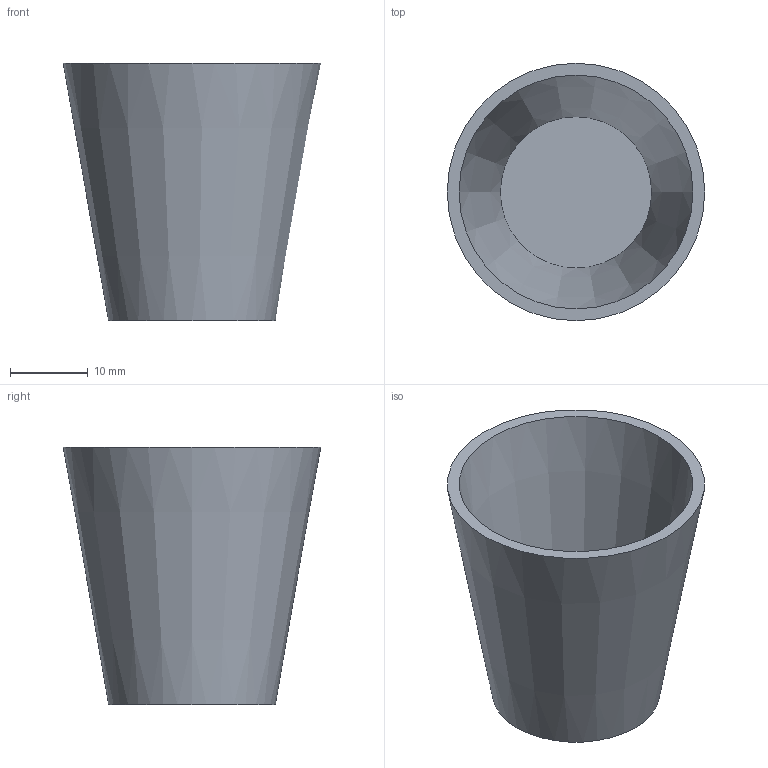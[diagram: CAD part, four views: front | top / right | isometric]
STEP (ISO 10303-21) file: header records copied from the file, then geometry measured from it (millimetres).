
FILE_DESCRIPTION(/* description */ (''),/* implementation_level */ '2;1');
FILE_NAME(/* name */ 'StackDrawerBox2-Sock.step',/* time_stamp */ '2024-06-30T17:00:06+02:00',/* author */ (''),/* organization */ (''),/* preprocessor_version */ 'ST-DEVELOPER v20',/* originating_system */ 'Autodesk Translation Framework v13.14.0.145',/* authorisation */ '');
FILE_SCHEMA (('AUTOMOTIVE_DESIGN { 1 0 10303 214 3 1 1 }'));
Length unit declared in the file: millimetre
Products named in the file (2): StackDrawerBox2-base2; Component8
Assembly tree (1 placements, depth 2):
  StackDrawerBox2-base2
    Component8
Bounding box: 33.05 x 33.05 x 33 mm (x, y, z)
Volume: 4808.1 mm3; surface area: 6111 mm2
Topology: 1 solids, 1 shells, 13 faces, 19 edges, 12 vertices
Faces by surface type: cone 7, plane 6
Entity records: 342 total; most frequent: DIRECTION 63, CARTESIAN_POINT 47, ORIENTED_EDGE 38, AXIS2_PLACEMENT_3D 28, EDGE_CURVE 19, EDGE_LOOP 17, FACE_OUTER_BOUND 13, ADVANCED_FACE 13
